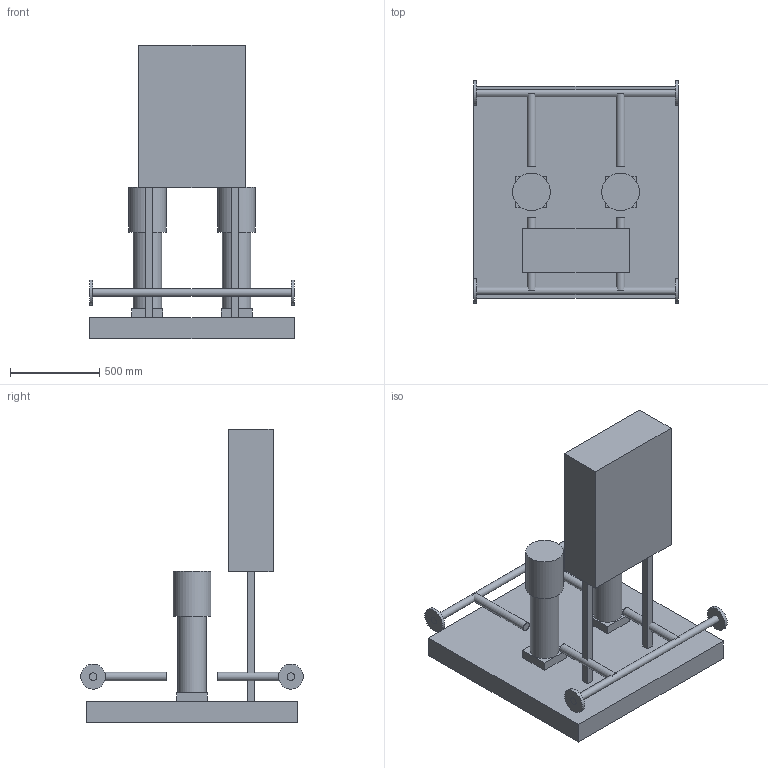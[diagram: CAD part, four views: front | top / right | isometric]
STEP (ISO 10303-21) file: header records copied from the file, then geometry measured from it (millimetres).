
FILE_DESCRIPTION(('Open CASCADE Model'),'2;1');
FILE_NAME('Open CASCADE Shape Model','2026-10-21T15:05:52',('Author'),( 'Open CASCADE'),'Open CASCADE STEP processor 7.9','Open CASCADE 7.9' ,'Unknown');
FILE_SCHEMA(('AUTOMOTIVE_DESIGN { 1 0 10303 214 1 1 1 1 }'));
Length unit declared in the file: millimetre
Products named in the file (21): Ð£ÐÐÐ_ÐÐ ÐÐÐÐ¬_2_CDM_10_4; 000_Ð Ð°Ð¼Ð° (Ð¾ÑÐ½Ð¾Ð²Ð°Ð½Ð¸Ðµ); 001_ÐÐ¾Ð»Ð»ÐµÐºÑÐ¾Ñ 
Ð²ÑÐ°ÑÑÐ²Ð°ÑÑÐ¸Ð¹; 002_ÐÐ¾Ð»Ð»ÐµÐºÑÐ¾Ñ 
Ð²ÑÐ°ÑÑÐ²Ð°ÑÑÐ¸Ð¹ â 
ÑÐ»Ð°Ð½ÐµÑ ÐÑ32; 003_ÐÐ¾Ð»Ð»ÐµÐºÑÐ¾Ñ 
Ð²ÑÐ°ÑÑÐ²Ð°ÑÑÐ¸Ð¹ â 
ÑÐ»Ð°Ð½ÐµÑ ÐÑ32; 004_ÐÐ¾Ð»Ð»ÐµÐºÑÐ¾Ñ 
Ð½Ð°Ð¿Ð¾ÑÐ½ÑÐ¹; 005_ÐÐ¾Ð»Ð»ÐµÐºÑÐ¾Ñ 
Ð½Ð°Ð¿Ð¾ÑÐ½ÑÐ¹ â ÑÐ»Ð°Ð½ÐµÑ 
ÐÑ32; 006_ÐÐ¾Ð»Ð»ÐµÐºÑÐ¾Ñ 
Ð½Ð°Ð¿Ð¾ÑÐ½ÑÐ¹ â ÑÐ»Ð°Ð½ÐµÑ 
ÐÑ32; 007_ÐÐ°ÑÐ¾Ñ 1 â Ð¾Ð¿Ð¾ÑÐ°; 008_ÐÐ°ÑÐ¾Ñ 1 â 
Ð³Ð¸Ð´ÑÐ¾ÑÐ°ÑÑÑ; 009_ÐÐ°ÑÐ¾Ñ 1 â Ð´Ð²Ð¸Ð³Ð°ÑÐµÐ»Ñ 
1.5 ÐºÐÑ; 010_ÐÐ°ÑÐ¾Ñ 1 â Ð¾Ð±Ð²ÑÐ·ÐºÐ° 
Ð²ÑÐ¾Ð´ ÐÑ40; 011_ÐÐ°ÑÐ¾Ñ 1 â Ð¾Ð±Ð²ÑÐ·ÐºÐ° 
Ð²ÑÑÐ¾Ð´ ÐÑ40; 012_ÐÐ°ÑÐ¾Ñ 2 â Ð¾Ð¿Ð¾ÑÐ°; 013_ÐÐ°ÑÐ¾Ñ 2 â 
Ð³Ð¸Ð´ÑÐ¾ÑÐ°ÑÑÑ; 014_ÐÐ°ÑÐ¾Ñ 2 â Ð´Ð²Ð¸Ð³Ð°ÑÐµÐ»Ñ 
1.5 ÐºÐÑ; 015_ÐÐ°ÑÐ¾Ñ 2 â Ð¾Ð±Ð²ÑÐ·ÐºÐ° 
Ð²ÑÐ¾Ð´ ÐÑ40; 016_ÐÐ°ÑÐ¾Ñ 2 â Ð¾Ð±Ð²ÑÐ·ÐºÐ° 
Ð²ÑÑÐ¾Ð´ ÐÑ40; 017_Ð¨ÐºÐ°Ñ ÑÐ¿ÑÐ°Ð²Ð»ÐµÐ½Ð¸Ñ; 018_Ð¡ÑÐ¾Ð¹ÐºÐ° ÑÐºÐ°ÑÐ°; 019_Ð¡ÑÐ¾Ð¹ÐºÐ° ÑÐºÐ°ÑÐ°
Assembly tree (20 placements, depth 2):
  Ð£ÐÐÐ_ÐÐ ÐÐÐÐ¬_2_CDM_10_4
    000_Ð Ð°Ð¼Ð° (Ð¾ÑÐ½Ð¾Ð²Ð°Ð½Ð¸Ðµ)
    001_ÐÐ¾Ð»Ð»ÐµÐºÑÐ¾Ñ 
Ð²ÑÐ°ÑÑÐ²Ð°ÑÑÐ¸Ð¹
    002_ÐÐ¾Ð»Ð»ÐµÐºÑÐ¾Ñ 
Ð²ÑÐ°ÑÑÐ²Ð°ÑÑÐ¸Ð¹ â 
ÑÐ»Ð°Ð½ÐµÑ ÐÑ32
    003_ÐÐ¾Ð»Ð»ÐµÐºÑÐ¾Ñ 
Ð²ÑÐ°ÑÑÐ²Ð°ÑÑÐ¸Ð¹ â 
ÑÐ»Ð°Ð½ÐµÑ ÐÑ32
    004_ÐÐ¾Ð»Ð»ÐµÐºÑÐ¾Ñ 
Ð½Ð°Ð¿Ð¾ÑÐ½ÑÐ¹
    005_ÐÐ¾Ð»Ð»ÐµÐºÑÐ¾Ñ 
Ð½Ð°Ð¿Ð¾ÑÐ½ÑÐ¹ â ÑÐ»Ð°Ð½ÐµÑ 
ÐÑ32
    006_ÐÐ¾Ð»Ð»ÐµÐºÑÐ¾Ñ 
Ð½Ð°Ð¿Ð¾ÑÐ½ÑÐ¹ â ÑÐ»Ð°Ð½ÐµÑ 
ÐÑ32
    007_ÐÐ°ÑÐ¾Ñ 1 â Ð¾Ð¿Ð¾ÑÐ°
    008_ÐÐ°ÑÐ¾Ñ 1 â 
Ð³Ð¸Ð´ÑÐ¾ÑÐ°ÑÑÑ
    009_ÐÐ°ÑÐ¾Ñ 1 â Ð´Ð²Ð¸Ð³Ð°ÑÐµÐ»Ñ 
1.5 ÐºÐÑ
    010_ÐÐ°ÑÐ¾Ñ 1 â Ð¾Ð±Ð²ÑÐ·ÐºÐ° 
Ð²ÑÐ¾Ð´ ÐÑ40
    011_ÐÐ°ÑÐ¾Ñ 1 â Ð¾Ð±Ð²ÑÐ·ÐºÐ° 
Ð²ÑÑÐ¾Ð´ ÐÑ40
    012_ÐÐ°ÑÐ¾Ñ 2 â Ð¾Ð¿Ð¾ÑÐ°
    013_ÐÐ°ÑÐ¾Ñ 2 â 
Ð³Ð¸Ð´ÑÐ¾ÑÐ°ÑÑÑ
    014_ÐÐ°ÑÐ¾Ñ 2 â Ð´Ð²Ð¸Ð³Ð°ÑÐµÐ»Ñ 
1.5 ÐºÐÑ
    015_ÐÐ°ÑÐ¾Ñ 2 â Ð¾Ð±Ð²ÑÐ·ÐºÐ° 
Ð²ÑÐ¾Ð´ ÐÑ40
    016_ÐÐ°ÑÐ¾Ñ 2 â Ð¾Ð±Ð²ÑÐ·ÐºÐ° 
Ð²ÑÑÐ¾Ð´ ÐÑ40
    017_Ð¨ÐºÐ°Ñ ÑÐ¿ÑÐ°Ð²Ð»ÐµÐ½Ð¸Ñ
    018_Ð¡ÑÐ¾Ð¹ÐºÐ° ÑÐºÐ°ÑÐ°
    019_Ð¡ÑÐ¾Ð¹ÐºÐ° ÑÐºÐ°ÑÐ°
Bounding box: 1150 x 1250 x 1650 mm (x, y, z)
Volume: 331750988.5 mm3; surface area: 7104459 mm2
Topology: 20 solids, 20 shells, 78 faces, 114 edges, 76 vertices
Faces by surface type: plane 64, cylinder 14
Full cylindrical faces by diameter (mm): 42.4 x2, 48.3 x4, 140 x4, 159.5 x2, 211 x2
Entity records: 3666 total; most frequent: DIRECTION 568, CARTESIAN_POINT 517, LINE 286, VECTOR 286, ORIENTED_EDGE 228, PCURVE 228, DEFINITIONAL_REPRESENTATION 228, AXIS2_PLACEMENT_3D 127
